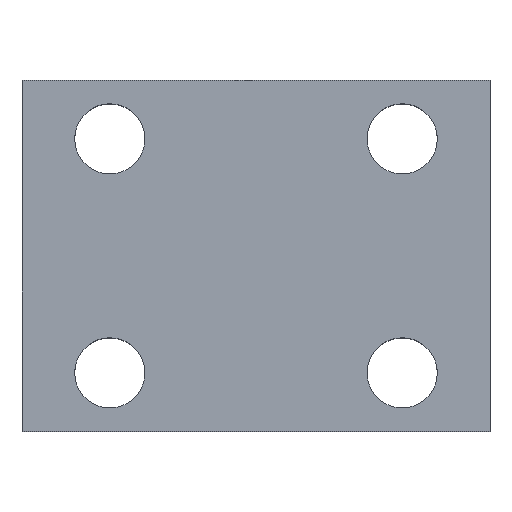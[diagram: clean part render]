
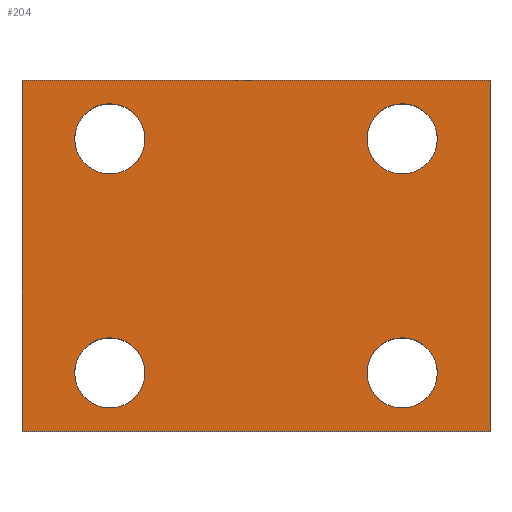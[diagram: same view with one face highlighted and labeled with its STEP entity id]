
A CAD part, top view. The second image highlights one B-rep face of the part: STEP entity #204.
In plain terms, the highlighted planar face has unit normal (0, 0, 1).
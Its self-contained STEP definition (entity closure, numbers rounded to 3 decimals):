
#39 = EDGE_CURVE('',#40,#42,#44,.T.);
#40 = VERTEX_POINT('',#41);
#41 = CARTESIAN_POINT('',(-8.,-6.,4.));
#42 = VERTEX_POINT('',#43);
#43 = CARTESIAN_POINT('',(-8.,6.,4.));
#44 = SURFACE_CURVE('',#45,(#49,#61),.PCURVE_S1.);
#45 = LINE('',#46,#47);
#46 = CARTESIAN_POINT('',(-8.,-7.,4.));
#47 = VECTOR('',#48,1.);
#48 = DIRECTION('',(-0.,1.,0.));
#49 = PCURVE('',#50,#55);
#50 = PLANE('',#51);
#51 = AXIS2_PLACEMENT_3D('',#52,#53,#54);
#52 = CARTESIAN_POINT('',(-8.,-7.,-4.));
#53 = DIRECTION('',(1.,0.,-0.));
#54 = DIRECTION('',(0.,0.,1.));
#55 = DEFINITIONAL_REPRESENTATION('',(#56),#60);
#56 = LINE('',#57,#58);
#57 = CARTESIAN_POINT('',(8.,0.));
#58 = VECTOR('',#59,1.);
#59 = DIRECTION('',(0.,-1.));
#60 = ( GEOMETRIC_REPRESENTATION_CONTEXT(2) 
PARAMETRIC_REPRESENTATION_CONTEXT() REPRESENTATION_CONTEXT('2D SPACE',''
  ) );
#61 = PCURVE('',#62,#67);
#62 = PLANE('',#63);
#63 = AXIS2_PLACEMENT_3D('',#64,#65,#66);
#64 = CARTESIAN_POINT('',(-8.,-7.,4.));
#65 = DIRECTION('',(0.,0.,1.));
#66 = DIRECTION('',(1.,0.,-0.));
#67 = DEFINITIONAL_REPRESENTATION('',(#68),#72);
#68 = LINE('',#69,#70);
#69 = CARTESIAN_POINT('',(0.,0.));
#70 = VECTOR('',#71,1.);
#71 = DIRECTION('',(0.,1.));
#72 = ( GEOMETRIC_REPRESENTATION_CONTEXT(2) 
PARAMETRIC_REPRESENTATION_CONTEXT() REPRESENTATION_CONTEXT('2D SPACE',''
  ) );
#89 = PLANE('',#90);
#90 = AXIS2_PLACEMENT_3D('',#91,#92,#93);
#91 = CARTESIAN_POINT('',(-10.,-6.,0.05));
#92 = DIRECTION('',(-0.,1.,0.));
#93 = DIRECTION('',(0.,0.,1.));
#194 = PLANE('',#195);
#195 = AXIS2_PLACEMENT_3D('',#196,#197,#198);
#196 = CARTESIAN_POINT('',(-10.,6.,0.05));
#197 = DIRECTION('',(-0.,1.,0.));
#198 = DIRECTION('',(0.,0.,1.));
#204 = ADVANCED_FACE('',(#205,#276,#307,#338,#369),#62,.T.);
#205 = FACE_BOUND('',#206,.T.);
#206 = EDGE_LOOP('',(#207,#208,#229,#257));
#207 = ORIENTED_EDGE('',*,*,#39,.F.);
#208 = ORIENTED_EDGE('',*,*,#209,.F.);
#209 = EDGE_CURVE('',#210,#40,#212,.T.);
#210 = VERTEX_POINT('',#211);
#211 = CARTESIAN_POINT('',(8.,-6.,4.));
#212 = SURFACE_CURVE('',#213,(#217,#223),.PCURVE_S1.);
#213 = LINE('',#214,#215);
#214 = CARTESIAN_POINT('',(-9.,-6.,4.));
#215 = VECTOR('',#216,1.);
#216 = DIRECTION('',(-1.,-0.,0.));
#217 = PCURVE('',#62,#218);
#218 = DEFINITIONAL_REPRESENTATION('',(#219),#222);
#219 = B_SPLINE_CURVE_WITH_KNOTS('',1,(#220,#221),.UNSPECIFIED.,.F.,.F.,
  (2,2),(-17.,-1.),.PIECEWISE_BEZIER_KNOTS.);
#220 = CARTESIAN_POINT('',(16.,1.));
#221 = CARTESIAN_POINT('',(0.,1.));
#222 = ( GEOMETRIC_REPRESENTATION_CONTEXT(2) 
PARAMETRIC_REPRESENTATION_CONTEXT() REPRESENTATION_CONTEXT('2D SPACE',''
  ) );
#223 = PCURVE('',#89,#224);
#224 = DEFINITIONAL_REPRESENTATION('',(#225),#228);
#225 = B_SPLINE_CURVE_WITH_KNOTS('',1,(#226,#227),.UNSPECIFIED.,.F.,.F.,
  (2,2),(-17.,-1.),.PIECEWISE_BEZIER_KNOTS.);
#226 = CARTESIAN_POINT('',(3.95,18.));
#227 = CARTESIAN_POINT('',(3.95,2.));
#228 = ( GEOMETRIC_REPRESENTATION_CONTEXT(2) 
PARAMETRIC_REPRESENTATION_CONTEXT() REPRESENTATION_CONTEXT('2D SPACE',''
  ) );
#229 = ORIENTED_EDGE('',*,*,#230,.T.);
#230 = EDGE_CURVE('',#210,#231,#233,.T.);
#231 = VERTEX_POINT('',#232);
#232 = CARTESIAN_POINT('',(8.,6.,4.));
#233 = SURFACE_CURVE('',#234,(#238,#245),.PCURVE_S1.);
#234 = LINE('',#235,#236);
#235 = CARTESIAN_POINT('',(8.,-7.,4.));
#236 = VECTOR('',#237,1.);
#237 = DIRECTION('',(-0.,1.,0.));
#238 = PCURVE('',#62,#239);
#239 = DEFINITIONAL_REPRESENTATION('',(#240),#244);
#240 = LINE('',#241,#242);
#241 = CARTESIAN_POINT('',(16.,0.));
#242 = VECTOR('',#243,1.);
#243 = DIRECTION('',(0.,1.));
#244 = ( GEOMETRIC_REPRESENTATION_CONTEXT(2) 
PARAMETRIC_REPRESENTATION_CONTEXT() REPRESENTATION_CONTEXT('2D SPACE',''
  ) );
#245 = PCURVE('',#246,#251);
#246 = PLANE('',#247);
#247 = AXIS2_PLACEMENT_3D('',#248,#249,#250);
#248 = CARTESIAN_POINT('',(8.,-7.,-4.));
#249 = DIRECTION('',(1.,0.,-0.));
#250 = DIRECTION('',(0.,0.,1.));
#251 = DEFINITIONAL_REPRESENTATION('',(#252),#256);
#252 = LINE('',#253,#254);
#253 = CARTESIAN_POINT('',(8.,0.));
#254 = VECTOR('',#255,1.);
#255 = DIRECTION('',(0.,-1.));
#256 = ( GEOMETRIC_REPRESENTATION_CONTEXT(2) 
PARAMETRIC_REPRESENTATION_CONTEXT() REPRESENTATION_CONTEXT('2D SPACE',''
  ) );
#257 = ORIENTED_EDGE('',*,*,#258,.T.);
#258 = EDGE_CURVE('',#231,#42,#259,.T.);
#259 = SURFACE_CURVE('',#260,(#264,#270),.PCURVE_S1.);
#260 = LINE('',#261,#262);
#261 = CARTESIAN_POINT('',(-9.,6.,4.));
#262 = VECTOR('',#263,1.);
#263 = DIRECTION('',(-1.,-0.,0.));
#264 = PCURVE('',#62,#265);
#265 = DEFINITIONAL_REPRESENTATION('',(#266),#269);
#266 = B_SPLINE_CURVE_WITH_KNOTS('',1,(#267,#268),.UNSPECIFIED.,.F.,.F.,
  (2,2),(-17.,-1.),.PIECEWISE_BEZIER_KNOTS.);
#267 = CARTESIAN_POINT('',(16.,13.));
#268 = CARTESIAN_POINT('',(0.,13.));
#269 = ( GEOMETRIC_REPRESENTATION_CONTEXT(2) 
PARAMETRIC_REPRESENTATION_CONTEXT() REPRESENTATION_CONTEXT('2D SPACE',''
  ) );
#270 = PCURVE('',#194,#271);
#271 = DEFINITIONAL_REPRESENTATION('',(#272),#275);
#272 = B_SPLINE_CURVE_WITH_KNOTS('',1,(#273,#274),.UNSPECIFIED.,.F.,.F.,
  (2,2),(-17.,-1.),.PIECEWISE_BEZIER_KNOTS.);
#273 = CARTESIAN_POINT('',(3.95,18.));
#274 = CARTESIAN_POINT('',(3.95,2.));
#275 = ( GEOMETRIC_REPRESENTATION_CONTEXT(2) 
PARAMETRIC_REPRESENTATION_CONTEXT() REPRESENTATION_CONTEXT('2D SPACE',''
  ) );
#276 = FACE_BOUND('',#277,.T.);
#277 = EDGE_LOOP('',(#278));
#278 = ORIENTED_EDGE('',*,*,#279,.F.);
#279 = EDGE_CURVE('',#280,#280,#282,.T.);
#280 = VERTEX_POINT('',#281);
#281 = CARTESIAN_POINT('',(-3.8,-4.,4.));
#282 = SURFACE_CURVE('',#283,(#288,#295),.PCURVE_S1.);
#283 = CIRCLE('',#284,1.2);
#284 = AXIS2_PLACEMENT_3D('',#285,#286,#287);
#285 = CARTESIAN_POINT('',(-5.,-4.,4.));
#286 = DIRECTION('',(0.,0.,1.));
#287 = DIRECTION('',(1.,0.,-0.));
#288 = PCURVE('',#62,#289);
#289 = DEFINITIONAL_REPRESENTATION('',(#290),#294);
#290 = CIRCLE('',#291,1.2);
#291 = AXIS2_PLACEMENT_2D('',#292,#293);
#292 = CARTESIAN_POINT('',(3.,3.));
#293 = DIRECTION('',(1.,0.));
#294 = ( GEOMETRIC_REPRESENTATION_CONTEXT(2) 
PARAMETRIC_REPRESENTATION_CONTEXT() REPRESENTATION_CONTEXT('2D SPACE',''
  ) );
#295 = PCURVE('',#296,#301);
#296 = CYLINDRICAL_SURFACE('',#297,1.2);
#297 = AXIS2_PLACEMENT_3D('',#298,#299,#300);
#298 = CARTESIAN_POINT('',(-5.,-4.,-6.));
#299 = DIRECTION('',(0.,0.,1.));
#300 = DIRECTION('',(1.,0.,-0.));
#301 = DEFINITIONAL_REPRESENTATION('',(#302),#306);
#302 = LINE('',#303,#304);
#303 = CARTESIAN_POINT('',(0.,10.));
#304 = VECTOR('',#305,1.);
#305 = DIRECTION('',(1.,0.));
#306 = ( GEOMETRIC_REPRESENTATION_CONTEXT(2) 
PARAMETRIC_REPRESENTATION_CONTEXT() REPRESENTATION_CONTEXT('2D SPACE',''
  ) );
#307 = FACE_BOUND('',#308,.T.);
#308 = EDGE_LOOP('',(#309));
#309 = ORIENTED_EDGE('',*,*,#310,.F.);
#310 = EDGE_CURVE('',#311,#311,#313,.T.);
#311 = VERTEX_POINT('',#312);
#312 = CARTESIAN_POINT('',(6.2,-4.,4.));
#313 = SURFACE_CURVE('',#314,(#319,#326),.PCURVE_S1.);
#314 = CIRCLE('',#315,1.2);
#315 = AXIS2_PLACEMENT_3D('',#316,#317,#318);
#316 = CARTESIAN_POINT('',(5.,-4.,4.));
#317 = DIRECTION('',(0.,0.,1.));
#318 = DIRECTION('',(1.,0.,-0.));
#319 = PCURVE('',#62,#320);
#320 = DEFINITIONAL_REPRESENTATION('',(#321),#325);
#321 = CIRCLE('',#322,1.2);
#322 = AXIS2_PLACEMENT_2D('',#323,#324);
#323 = CARTESIAN_POINT('',(13.,3.));
#324 = DIRECTION('',(1.,0.));
#325 = ( GEOMETRIC_REPRESENTATION_CONTEXT(2) 
PARAMETRIC_REPRESENTATION_CONTEXT() REPRESENTATION_CONTEXT('2D SPACE',''
  ) );
#326 = PCURVE('',#327,#332);
#327 = CYLINDRICAL_SURFACE('',#328,1.2);
#328 = AXIS2_PLACEMENT_3D('',#329,#330,#331);
#329 = CARTESIAN_POINT('',(5.,-4.,-6.));
#330 = DIRECTION('',(0.,0.,1.));
#331 = DIRECTION('',(1.,0.,-0.));
#332 = DEFINITIONAL_REPRESENTATION('',(#333),#337);
#333 = LINE('',#334,#335);
#334 = CARTESIAN_POINT('',(0.,10.));
#335 = VECTOR('',#336,1.);
#336 = DIRECTION('',(1.,0.));
#337 = ( GEOMETRIC_REPRESENTATION_CONTEXT(2) 
PARAMETRIC_REPRESENTATION_CONTEXT() REPRESENTATION_CONTEXT('2D SPACE',''
  ) );
#338 = FACE_BOUND('',#339,.T.);
#339 = EDGE_LOOP('',(#340));
#340 = ORIENTED_EDGE('',*,*,#341,.F.);
#341 = EDGE_CURVE('',#342,#342,#344,.T.);
#342 = VERTEX_POINT('',#343);
#343 = CARTESIAN_POINT('',(-3.8,4.,4.));
#344 = SURFACE_CURVE('',#345,(#350,#357),.PCURVE_S1.);
#345 = CIRCLE('',#346,1.2);
#346 = AXIS2_PLACEMENT_3D('',#347,#348,#349);
#347 = CARTESIAN_POINT('',(-5.,4.,4.));
#348 = DIRECTION('',(0.,0.,1.));
#349 = DIRECTION('',(1.,0.,-0.));
#350 = PCURVE('',#62,#351);
#351 = DEFINITIONAL_REPRESENTATION('',(#352),#356);
#352 = CIRCLE('',#353,1.2);
#353 = AXIS2_PLACEMENT_2D('',#354,#355);
#354 = CARTESIAN_POINT('',(3.,11.));
#355 = DIRECTION('',(1.,0.));
#356 = ( GEOMETRIC_REPRESENTATION_CONTEXT(2) 
PARAMETRIC_REPRESENTATION_CONTEXT() REPRESENTATION_CONTEXT('2D SPACE',''
  ) );
#357 = PCURVE('',#358,#363);
#358 = CYLINDRICAL_SURFACE('',#359,1.2);
#359 = AXIS2_PLACEMENT_3D('',#360,#361,#362);
#360 = CARTESIAN_POINT('',(-5.,4.,-6.));
#361 = DIRECTION('',(0.,0.,1.));
#362 = DIRECTION('',(1.,0.,-0.));
#363 = DEFINITIONAL_REPRESENTATION('',(#364),#368);
#364 = LINE('',#365,#366);
#365 = CARTESIAN_POINT('',(0.,10.));
#366 = VECTOR('',#367,1.);
#367 = DIRECTION('',(1.,0.));
#368 = ( GEOMETRIC_REPRESENTATION_CONTEXT(2) 
PARAMETRIC_REPRESENTATION_CONTEXT() REPRESENTATION_CONTEXT('2D SPACE',''
  ) );
#369 = FACE_BOUND('',#370,.T.);
#370 = EDGE_LOOP('',(#371));
#371 = ORIENTED_EDGE('',*,*,#372,.F.);
#372 = EDGE_CURVE('',#373,#373,#375,.T.);
#373 = VERTEX_POINT('',#374);
#374 = CARTESIAN_POINT('',(6.2,4.,4.));
#375 = SURFACE_CURVE('',#376,(#381,#388),.PCURVE_S1.);
#376 = CIRCLE('',#377,1.2);
#377 = AXIS2_PLACEMENT_3D('',#378,#379,#380);
#378 = CARTESIAN_POINT('',(5.,4.,4.));
#379 = DIRECTION('',(0.,0.,1.));
#380 = DIRECTION('',(1.,0.,-0.));
#381 = PCURVE('',#62,#382);
#382 = DEFINITIONAL_REPRESENTATION('',(#383),#387);
#383 = CIRCLE('',#384,1.2);
#384 = AXIS2_PLACEMENT_2D('',#385,#386);
#385 = CARTESIAN_POINT('',(13.,11.));
#386 = DIRECTION('',(1.,0.));
#387 = ( GEOMETRIC_REPRESENTATION_CONTEXT(2) 
PARAMETRIC_REPRESENTATION_CONTEXT() REPRESENTATION_CONTEXT('2D SPACE',''
  ) );
#388 = PCURVE('',#389,#394);
#389 = CYLINDRICAL_SURFACE('',#390,1.2);
#390 = AXIS2_PLACEMENT_3D('',#391,#392,#393);
#391 = CARTESIAN_POINT('',(5.,4.,-6.));
#392 = DIRECTION('',(0.,0.,1.));
#393 = DIRECTION('',(1.,0.,-0.));
#394 = DEFINITIONAL_REPRESENTATION('',(#395),#399);
#395 = LINE('',#396,#397);
#396 = CARTESIAN_POINT('',(0.,10.));
#397 = VECTOR('',#398,1.);
#398 = DIRECTION('',(1.,0.));
#399 = ( GEOMETRIC_REPRESENTATION_CONTEXT(2) 
PARAMETRIC_REPRESENTATION_CONTEXT() REPRESENTATION_CONTEXT('2D SPACE',''
  ) );
